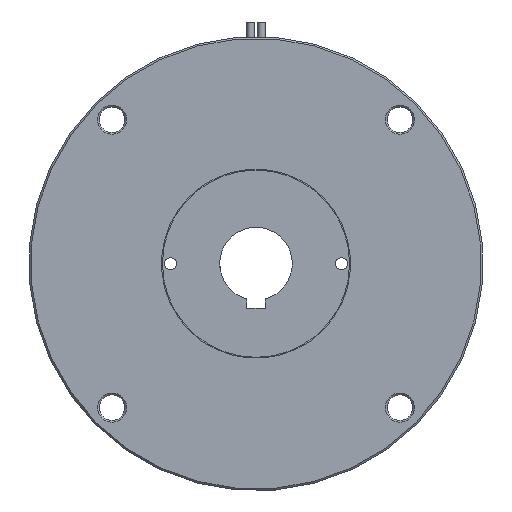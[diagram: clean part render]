
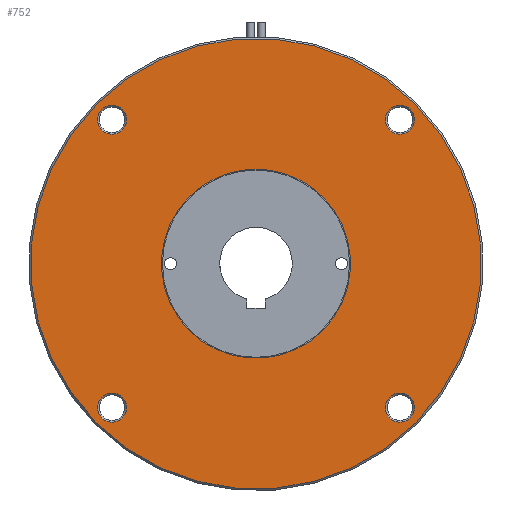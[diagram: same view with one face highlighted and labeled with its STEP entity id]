
A CAD part, front view. The second image highlights one B-rep face of the part: STEP entity #752.
In plain terms, the highlighted planar face has unit normal (0, -1, 0).
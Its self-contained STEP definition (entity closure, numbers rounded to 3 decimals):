
#114 = CARTESIAN_POINT ( 'NONE',  ( -36.77, 10.902, -36.77 ) ) ;
#173 = EDGE_CURVE ( 'NONE', #1406, #6094, #4522, .T. ) ;
#337 = DIRECTION ( 'NONE',  ( 0., 1., 0. ) ) ;
#370 = EDGE_CURVE ( 'NONE', #1374, #2915, #3084, .T. ) ;
#382 = EDGE_CURVE ( 'NONE', #2915, #1374, #1436, .T. ) ;
#564 = EDGE_LOOP ( 'NONE', ( #3867, #6950 ) ) ;
#582 = CARTESIAN_POINT ( 'NONE',  ( 43.841, 10.902, 43.841 ) ) ;
#668 = ORIENTED_EDGE ( 'NONE', *, *, #6366, .T. ) ;
#671 = FACE_BOUND ( 'NONE', #5084, .T. ) ;
#752 = ADVANCED_FACE ( 'NONE', ( #1998, #2797, #671, #6421, #764, #2414 ), #3052, .T. ) ;
#764 = FACE_OUTER_BOUND ( 'NONE', #878, .T. ) ;
#869 = DIRECTION ( 'NONE',  ( 0.707, 0., 0.707 ) ) ;
#878 = EDGE_LOOP ( 'NONE', ( #1711, #5247 ) ) ;
#917 = CARTESIAN_POINT ( 'NONE',  ( 39.598, 10.902, -39.598 ) ) ;
#952 = CARTESIAN_POINT ( 'NONE',  ( 42.426, 10.902, 42.426 ) ) ;
#1019 = DIRECTION ( 'NONE',  ( -0.707, 0., -0.707 ) ) ;
#1047 = CIRCLE ( 'NONE', #2768, 62. ) ;
#1102 = AXIS2_PLACEMENT_3D ( 'NONE', #917, #6637, #3493 ) ;
#1137 = VERTEX_POINT ( 'NONE', #6123 ) ;
#1203 = CARTESIAN_POINT ( 'NONE',  ( 0., 10.902, 0. ) ) ;
#1355 = CARTESIAN_POINT ( 'NONE',  ( 0., 10.902, 0. ) ) ;
#1374 = VERTEX_POINT ( 'NONE', #114 ) ;
#1406 = VERTEX_POINT ( 'NONE', #3543 ) ;
#1436 = CIRCLE ( 'NONE', #3473, 4. ) ;
#1513 = CARTESIAN_POINT ( 'NONE',  ( -42.426, 10.902, -42.426 ) ) ;
#1556 = AXIS2_PLACEMENT_3D ( 'NONE', #1355, #1727, #1801 ) ;
#1571 = DIRECTION ( 'NONE',  ( 0.707, 0., 0.707 ) ) ;
#1610 = EDGE_CURVE ( 'NONE', #3467, #6260, #2903, .T. ) ;
#1698 = CIRCLE ( 'NONE', #2026, 26. ) ;
#1704 = EDGE_CURVE ( 'NONE', #5576, #1137, #1047, .T. ) ;
#1711 = ORIENTED_EDGE ( 'NONE', *, *, #6753, .T. ) ;
#1719 = DIRECTION ( 'NONE',  ( 0., -1., 0. ) ) ;
#1727 = DIRECTION ( 'NONE',  ( 0., 1., 0. ) ) ;
#1733 = CARTESIAN_POINT ( 'NONE',  ( 39.598, 10.902, 39.598 ) ) ;
#1801 = DIRECTION ( 'NONE',  ( -0.707, 0., -0.707 ) ) ;
#1823 = AXIS2_PLACEMENT_3D ( 'NONE', #6488, #3772, #2717 ) ;
#1939 = CARTESIAN_POINT ( 'NONE',  ( 42.426, 10.902, -36.77 ) ) ;
#1977 = DIRECTION ( 'NONE',  ( 0.707, 0., 0.707 ) ) ;
#1998 = FACE_BOUND ( 'NONE', #4029, .T. ) ;
#2003 = CARTESIAN_POINT ( 'NONE',  ( 0., 10.902, 0. ) ) ;
#2026 = AXIS2_PLACEMENT_3D ( 'NONE', #5407, #5558, #1019 ) ;
#2074 = EDGE_LOOP ( 'NONE', ( #4012, #4664 ) ) ;
#2141 = CARTESIAN_POINT ( 'NONE',  ( 36.77, 10.902, 36.77 ) ) ;
#2408 = CIRCLE ( 'NONE', #5992, 4. ) ;
#2412 = EDGE_LOOP ( 'NONE', ( #668, #6819 ) ) ;
#2414 = FACE_BOUND ( 'NONE', #2412, .T. ) ;
#2542 = CARTESIAN_POINT ( 'NONE',  ( -18.385, 10.902, -18.385 ) ) ;
#2595 = DIRECTION ( 'NONE',  ( 0.707, 0., 0.707 ) ) ;
#2603 = CARTESIAN_POINT ( 'NONE',  ( -36.77, 10.902, 42.426 ) ) ;
#2609 = DIRECTION ( 'NONE',  ( 0., -1., 0. ) ) ;
#2717 = DIRECTION ( 'NONE',  ( 0.707, 0., 0.707 ) ) ;
#2768 = AXIS2_PLACEMENT_3D ( 'NONE', #1203, #1719, #5654 ) ;
#2797 = FACE_BOUND ( 'NONE', #2074, .T. ) ;
#2903 = CIRCLE ( 'NONE', #1823, 4. ) ;
#2915 = VERTEX_POINT ( 'NONE', #1513 ) ;
#2938 = EDGE_CURVE ( 'NONE', #3090, #3970, #2408, .T. ) ;
#3048 = CARTESIAN_POINT ( 'NONE',  ( 39.598, 10.902, 39.598 ) ) ;
#3052 = PLANE ( 'NONE',  #4346 ) ;
#3084 = CIRCLE ( 'NONE', #3132, 4. ) ;
#3090 = VERTEX_POINT ( 'NONE', #952 ) ;
#3132 = AXIS2_PLACEMENT_3D ( 'NONE', #4041, #6073, #869 ) ;
#3467 = VERTEX_POINT ( 'NONE', #2603 ) ;
#3473 = AXIS2_PLACEMENT_3D ( 'NONE', #5049, #337, #5879 ) ;
#3493 = DIRECTION ( 'NONE',  ( 0.707, 0., 0.707 ) ) ;
#3543 = CARTESIAN_POINT ( 'NONE',  ( 36.77, 10.902, -42.426 ) ) ;
#3567 = CARTESIAN_POINT ( 'NONE',  ( 39.598, 10.902, -39.598 ) ) ;
#3592 = CARTESIAN_POINT ( 'NONE',  ( -39.598, 10.902, 39.598 ) ) ;
#3719 = AXIS2_PLACEMENT_3D ( 'NONE', #3048, #6291, #1977 ) ;
#3772 = DIRECTION ( 'NONE',  ( 0., 1., 0. ) ) ;
#3867 = ORIENTED_EDGE ( 'NONE', *, *, #1610, .T. ) ;
#3903 = CARTESIAN_POINT ( 'NONE',  ( 18.385, 10.902, 18.385 ) ) ;
#3913 = CIRCLE ( 'NONE', #3719, 4. ) ;
#3923 = EDGE_CURVE ( 'NONE', #4751, #5110, #1698, .T. ) ;
#3970 = VERTEX_POINT ( 'NONE', #2141 ) ;
#4012 = ORIENTED_EDGE ( 'NONE', *, *, #2938, .T. ) ;
#4029 = EDGE_LOOP ( 'NONE', ( #6030, #5214 ) ) ;
#4041 = CARTESIAN_POINT ( 'NONE',  ( -39.598, 10.902, -39.598 ) ) ;
#4346 = AXIS2_PLACEMENT_3D ( 'NONE', #6658, #5898, #1571 ) ;
#4479 = EDGE_CURVE ( 'NONE', #6260, #3467, #5948, .T. ) ;
#4481 = EDGE_CURVE ( 'NONE', #6094, #1406, #6717, .T. ) ;
#4522 = CIRCLE ( 'NONE', #1102, 4. ) ;
#4663 = DIRECTION ( 'NONE',  ( 0., 1., 0. ) ) ;
#4664 = ORIENTED_EDGE ( 'NONE', *, *, #5116, .T. ) ;
#4716 = DIRECTION ( 'NONE',  ( 0.707, 0., 0.707 ) ) ;
#4751 = VERTEX_POINT ( 'NONE', #3903 ) ;
#4766 = ORIENTED_EDGE ( 'NONE', *, *, #173, .T. ) ;
#4954 = DIRECTION ( 'NONE',  ( 0., 1., 0. ) ) ;
#5049 = CARTESIAN_POINT ( 'NONE',  ( -39.598, 10.902, -39.598 ) ) ;
#5084 = EDGE_LOOP ( 'NONE', ( #6986, #4766 ) ) ;
#5110 = VERTEX_POINT ( 'NONE', #2542 ) ;
#5116 = EDGE_CURVE ( 'NONE', #3970, #3090, #3913, .T. ) ;
#5202 = DIRECTION ( 'NONE',  ( 0., 1., 0. ) ) ;
#5214 = ORIENTED_EDGE ( 'NONE', *, *, #382, .T. ) ;
#5247 = ORIENTED_EDGE ( 'NONE', *, *, #1704, .T. ) ;
#5407 = CARTESIAN_POINT ( 'NONE',  ( 0., 10.902, 0. ) ) ;
#5558 = DIRECTION ( 'NONE',  ( 0., 1., 0. ) ) ;
#5576 = VERTEX_POINT ( 'NONE', #582 ) ;
#5654 = DIRECTION ( 'NONE',  ( 0.707, 0., 0.707 ) ) ;
#5699 = CIRCLE ( 'NONE', #5983, 62. ) ;
#5879 = DIRECTION ( 'NONE',  ( 0.707, 0., 0.707 ) ) ;
#5898 = DIRECTION ( 'NONE',  ( 0., -1., 0. ) ) ;
#5948 = CIRCLE ( 'NONE', #6415, 4. ) ;
#5983 = AXIS2_PLACEMENT_3D ( 'NONE', #2003, #2609, #2595 ) ;
#5992 = AXIS2_PLACEMENT_3D ( 'NONE', #1733, #4954, #6055 ) ;
#6030 = ORIENTED_EDGE ( 'NONE', *, *, #370, .T. ) ;
#6055 = DIRECTION ( 'NONE',  ( 0.707, 0., 0.707 ) ) ;
#6069 = AXIS2_PLACEMENT_3D ( 'NONE', #3567, #4663, #4716 ) ;
#6073 = DIRECTION ( 'NONE',  ( 0., 1., 0. ) ) ;
#6094 = VERTEX_POINT ( 'NONE', #1939 ) ;
#6123 = CARTESIAN_POINT ( 'NONE',  ( -43.841, 10.902, -43.841 ) ) ;
#6231 = CIRCLE ( 'NONE', #1556, 26. ) ;
#6260 = VERTEX_POINT ( 'NONE', #6748 ) ;
#6291 = DIRECTION ( 'NONE',  ( 0., 1., 0. ) ) ;
#6305 = DIRECTION ( 'NONE',  ( 0.707, 0., 0.707 ) ) ;
#6366 = EDGE_CURVE ( 'NONE', #5110, #4751, #6231, .T. ) ;
#6415 = AXIS2_PLACEMENT_3D ( 'NONE', #3592, #5202, #6305 ) ;
#6421 = FACE_BOUND ( 'NONE', #564, .T. ) ;
#6488 = CARTESIAN_POINT ( 'NONE',  ( -39.598, 10.902, 39.598 ) ) ;
#6637 = DIRECTION ( 'NONE',  ( 0., 1., 0. ) ) ;
#6658 = CARTESIAN_POINT ( 'NONE',  ( 44.194, 10.902, -44.194 ) ) ;
#6717 = CIRCLE ( 'NONE', #6069, 4. ) ;
#6748 = CARTESIAN_POINT ( 'NONE',  ( -42.426, 10.902, 36.77 ) ) ;
#6753 = EDGE_CURVE ( 'NONE', #1137, #5576, #5699, .T. ) ;
#6819 = ORIENTED_EDGE ( 'NONE', *, *, #3923, .T. ) ;
#6950 = ORIENTED_EDGE ( 'NONE', *, *, #4479, .T. ) ;
#6986 = ORIENTED_EDGE ( 'NONE', *, *, #4481, .T. ) ;
